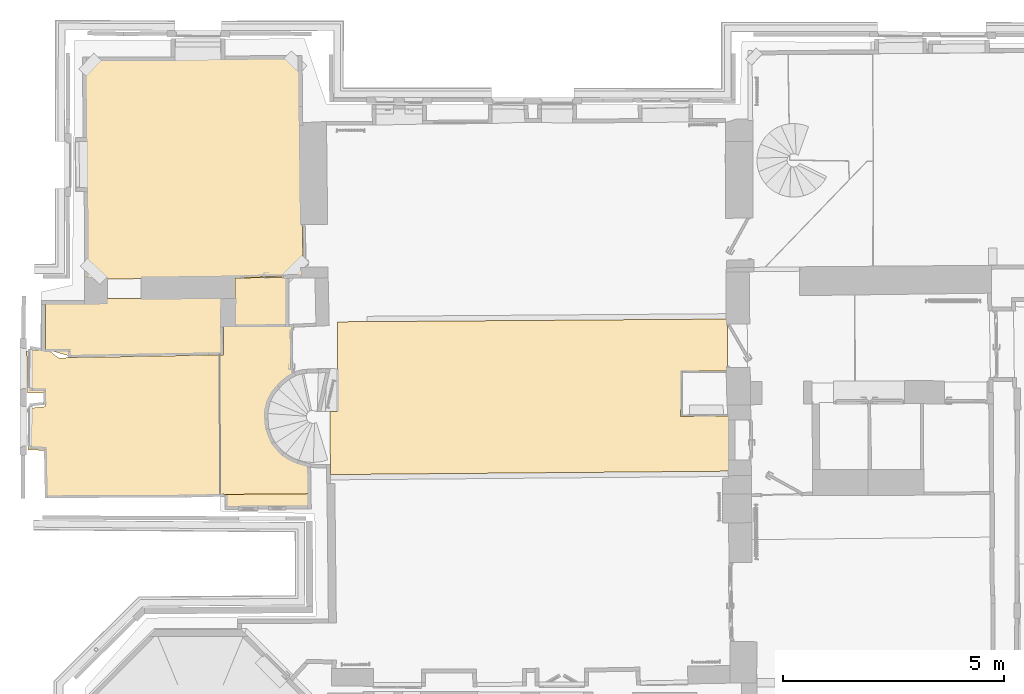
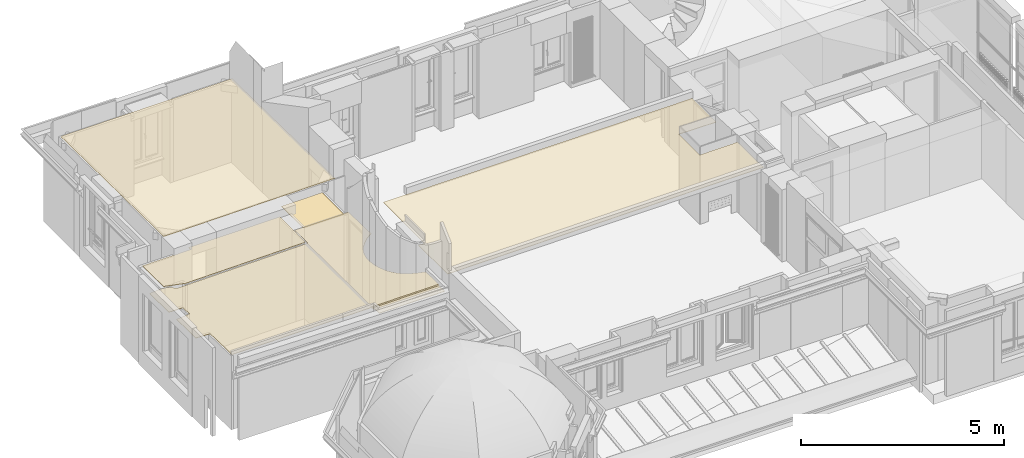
# One storey, part 67 of 72: 5 coverings.
"""IFC2X3 building model written with IfcOpenShell, lengths in centimetres."""

from ifc_helpers import new_model, entity, si_unit, converted_unit, direction, frame, origin, origin_with_axes, place, context, subcontext, project, spatial, faceted_brep, material, element, save


model = new_model("IFC2X3")

# Units and contexts
model_context = context("Model", 3, precision=0.0001, world=origin(), true_north=direction((0.225632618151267, 0.974212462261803, 0.0)))
body_context = subcontext(model_context, "Body", "Model", "MODEL_VIEW")
ifc_project = project(units=[si_unit("LENGTHUNIT", "METRE", prefix="CENTI"), si_unit("AREAUNIT", "SQUARE_METRE", prefix="CENTI"), si_unit("VOLUMEUNIT", "CUBIC_METRE", prefix="CENTI"), converted_unit("PLANEANGLEUNIT", "DEGREE", entity("IfcRatioMeasure", 0.0174532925), si_unit("PLANEANGLEUNIT", "RADIAN"), dimensions=[0, 0, 0, 0, 0, 0, 0])], contexts=[model_context])

# Site, building, storey
site_placement = place(None, origin_with_axes())
site = spatial("IfcSite", under=ifc_project, at=site_placement, Name="Default Site", CompositionType="ELEMENT")
building_placement = place(site_placement, origin_with_axes())
building = spatial("IfcBuilding", under=site, at=building_placement, Name="Default Building", CompositionType="ELEMENT")
storey_placement = place(building_placement, frame((0.0, 0.0, 853.910374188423), z_axis=(0.0, 0.0, 1.0), x_axis=(1.0, 0.0, 0.0)))
storey = spatial("IfcBuildingStorey", under=building, at=storey_placement, Name="Niveau 2", CompositionType="ELEMENT", Elevation=853.910374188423)

# Coverings
ifc_material = material(Name="Blanc")
covering_1_placement = place(storey_placement, frame((-874.718052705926, 204.344589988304, 218.5), z_axis=(0.0, 0.0, 1.0), x_axis=(1.0, 0.0, 0.0)))
element("IfcCovering", 1, at=covering_1_placement, inside=storey, material=ifc_material, Name="Faux-plafond 170647", PredefinedType="CEILING", context=body_context, shape_type="Brep", body=[
    faceted_brep([(-0.114386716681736, -107.098902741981, 1.40001246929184), (115.983397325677, -106.921614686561, 1.40001246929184), (116.350418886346, 1.53125973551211, 1.40001246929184), (0.0238006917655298, 0.0235006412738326, 1.40001246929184), (0.0238006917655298, 0.0235006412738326, 1.85728074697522e-05), (116.350418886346, 1.53125973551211, 1.85728074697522e-05), (115.983397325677, -106.921614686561, 1.85728074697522e-05), (-0.114386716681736, -107.098902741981, 1.85728074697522e-05), (115.983397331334, -106.921618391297, 1.85728074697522e-05), (115.983397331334, -106.921618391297, 1.40001246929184), (116.350404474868, 1.5312597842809, 1.85728074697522e-05), (116.350404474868, 1.5312597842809, 1.40001246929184), (0.0238008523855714, 0.0234882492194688, 1.85728074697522e-05), (0.0238008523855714, 0.0234882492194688, 1.40001246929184), (-0.114353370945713, -107.098902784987, 1.85728074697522e-05), (-0.114353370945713, -107.098902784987, 1.40001246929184)], [[[0, 1, 2, 3]], [[4, 5, 6, 7]], [[7, 8, 9, 0]], [[6, 10, 11, 1]], [[5, 12, 13, 2]], [[4, 14, 15, 3]]]),
])
covering_2_placement = place(storey_placement, frame((-1215.87809559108, 698.89979594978, 247.5), z_axis=(0.0, 0.0, 1.0), x_axis=(1.0, 0.0, 0.0)))
element("IfcCovering", 2, at=covering_2_placement, inside=storey, material=ifc_material, Name="Faux-plafond 206070", PredefinedType="CEILING", context=body_context, shape_type="Brep", body=[
    faceted_brep([(5.080308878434, -497.588922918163, 1.40000865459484), (494.592847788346, -491.773726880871, 1.40000865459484), (488.433351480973, 4.04257541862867, 1.40000865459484), (-9.57249373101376e-06, -2.32490160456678e-06, 1.40000865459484), (-9.57249373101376e-06, -2.32490160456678e-06, 1.4758110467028e-05), (488.433351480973, 4.04257541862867, 1.4758110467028e-05), (494.592847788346, -491.773726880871, 1.4758110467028e-05), (5.080308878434, -497.588922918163, 1.4758110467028e-05), (494.592847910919, -491.773737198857, 1.4758110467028e-05), (494.592847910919, -491.773737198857, 1.40000865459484), (488.433367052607, 4.04257561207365, 1.4758110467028e-05), (488.433367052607, 4.04257561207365, 1.40000865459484), (-9.4723354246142e-06, -1.44262178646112e-05, 1.4758110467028e-05), (-9.4723354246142e-06, -1.44262178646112e-05, 1.40000865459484), (5.08030707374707, -497.588922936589, 1.4758110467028e-05), (5.08030707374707, -497.588922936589, 1.40000865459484)], [[[0, 1, 2, 3]], [[4, 5, 6, 7]], [[7, 8, 9, 0]], [[6, 10, 11, 1]], [[5, 12, 13, 2]], [[4, 14, 15, 3]]]),
])
covering_3_placement = place(storey_placement, frame((-1300.68072650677, -289.393249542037, 222.0), z_axis=(0.0, 0.0, 1.0), x_axis=(1.0, 0.0, 0.0)))
element("IfcCovering", 3, at=covering_3_placement, inside=storey, material=ifc_material, Name="Faux-plafond 176923", PredefinedType="CEILING", context=body_context, shape_type="Brep", body=[
    faceted_brep([(400.195497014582, 6.29767516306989, 1.39999721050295), (494.022649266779, 5.53073027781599, 1.39999721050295), (591.395705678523, 7.82534220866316, 1.39999721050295), (590.479463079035, 69.1771898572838, 1.39999721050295), (583.757155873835, 71.0040722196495, 1.39999721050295), (577.085965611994, 73.0097208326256, 1.39999721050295), (570.470708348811, 75.1927051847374, 1.39999721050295), (563.916057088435, 77.5514993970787, 1.39999721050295), (557.426732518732, 80.08438685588, 1.39999721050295), (546.370786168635, 85.3724394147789, 1.39999721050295), (536.036056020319, 91.959706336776, 1.39999721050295), (526.574557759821, 99.7493062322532, 1.39999721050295), (518.125337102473, 108.626738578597, 1.39999721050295), (510.812610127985, 118.461481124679, 1.39999721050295), (505.433553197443, 129.270592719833, 1.39999721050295), (501.002591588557, 140.501705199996, 1.39999721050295), (497.552484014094, 152.071836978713, 1.39999721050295), (495.108788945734, 163.895514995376, 1.39999721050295), (493.689435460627, 175.885370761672, 1.39999721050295), (493.902200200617, 192.48348215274, 1.39999721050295), (497.006696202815, 208.790055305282, 1.39999721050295), (502.907842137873, 224.305180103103, 1.39999721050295), (511.424678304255, 238.553211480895, 1.39999721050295), (522.296088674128, 251.097339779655, 1.39999721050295), (528.027480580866, 257.35244491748, 1.39999721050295), (534.246200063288, 263.123360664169, 1.39999721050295), (540.911382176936, 268.372251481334, 1.39999721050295), (547.979348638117, 273.064709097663, 1.39999721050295), (555.403798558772, 277.169969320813, 1.39999721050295), (553.786605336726, 385.334304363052, 1.39999721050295), (399.757951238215, 385.099098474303, 1.39999721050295), (399.857133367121, 320.122036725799, 1.39999721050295), (27.0157751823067, 313.284528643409, 1.39999721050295), (9.25111148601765, 326.902193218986, 1.39999721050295), (-3.32308437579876, 331.926280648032, 1.39999721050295), (-44.8082032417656, 328.263518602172, 1.39999721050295), (-42.9625573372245, 234.577051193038, 1.39999721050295), (-3.81575252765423, 234.023169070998, 1.39999721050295), (-3.38068630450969, 203.247872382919, 1.39999721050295), (-42.4585404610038, 199.108568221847, 1.39999721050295), (-41.2255349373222, 105.822030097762, 1.39999721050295), (-2.04659130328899, 104.043534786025, 1.39999721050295), (-6.22028117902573e-06, -8.55275041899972e-06, 1.39999721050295), (390.600293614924, 3.18714717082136, 1.39999721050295), (390.600293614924, 3.18714717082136, 3.31401857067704e-06), (-6.22028117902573e-06, -8.55275041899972e-06, 3.31401857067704e-06), (-2.04659130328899, 104.043534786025, 3.31401857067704e-06), (-41.2255349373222, 105.822030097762, 3.31401857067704e-06), (-42.4585404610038, 199.108568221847, 3.31401857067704e-06), (-3.38068630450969, 203.247872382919, 3.31401857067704e-06), (-3.81575252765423, 234.023169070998, 3.31401857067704e-06), (-42.9625573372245, 234.577051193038, 3.31401857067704e-06), (-44.8082032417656, 328.263518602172, 3.31401857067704e-06), (-3.32308437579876, 331.926280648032, 3.31401857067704e-06), (9.25111148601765, 326.902193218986, 3.31401857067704e-06), (27.0157751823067, 313.284528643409, 3.31401857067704e-06), (399.857133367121, 320.122036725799, 3.31401857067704e-06), (399.757951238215, 385.099098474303, 3.31401857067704e-06), (553.786605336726, 385.334304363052, 3.31401857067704e-06), (555.403798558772, 277.169969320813, 3.31401857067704e-06), (547.979348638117, 273.064709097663, 3.31401857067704e-06), (540.911382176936, 268.372251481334, 3.31401857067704e-06), (534.246200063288, 263.123360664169, 3.31401857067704e-06), (528.027480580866, 257.35244491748, 3.31401857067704e-06), (522.296088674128, 251.097339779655, 3.31401857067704e-06), (511.424678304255, 238.553211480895, 3.31401857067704e-06), (502.907842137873, 224.305180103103, 3.31401857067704e-06), (497.006696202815, 208.790055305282, 3.31401857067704e-06), (493.902200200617, 192.48348215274, 3.31401857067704e-06), (493.689435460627, 175.885370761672, 3.31401857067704e-06), (495.108788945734, 163.895514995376, 3.31401857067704e-06), (497.552484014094, 152.071836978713, 3.31401857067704e-06), (501.002591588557, 140.501705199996, 3.31401857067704e-06), (505.433553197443, 129.270592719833, 3.31401857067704e-06), (510.812610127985, 118.461481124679, 3.31401857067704e-06), (518.125337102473, 108.626738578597, 3.31401857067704e-06), (526.574557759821, 99.7493062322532, 3.31401857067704e-06), (536.036056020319, 91.959706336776, 3.31401857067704e-06), (546.370786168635, 85.3724394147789, 3.31401857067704e-06), (557.426732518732, 80.08438685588, 3.31401857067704e-06), (563.916057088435, 77.5514993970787, 3.31401857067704e-06), (570.470708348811, 75.1927051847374, 3.31401857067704e-06), (577.085965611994, 73.0097208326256, 3.31401857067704e-06), (583.757155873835, 71.0040722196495, 3.31401857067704e-06), (590.479463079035, 69.1771898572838, 3.31401857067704e-06), (591.395705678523, 7.82534220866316, 3.31401857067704e-06), (494.022649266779, 5.53073027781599, 3.31401857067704e-06), (400.195497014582, 6.29767516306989, 3.31401857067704e-06), (494.022649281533, 5.53073208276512, 3.31401857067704e-06), (494.022649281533, 5.53073208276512, 1.39999721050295), (591.395705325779, 7.82535717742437, 3.31401857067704e-06), (591.395705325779, 7.82535717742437, 1.39999721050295), (590.479435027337, 69.1771894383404, 3.31401857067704e-06), (590.479435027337, 69.1771894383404, 1.39999721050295), (583.757153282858, 71.0040626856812, 3.31401857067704e-06), (583.757153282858, 71.0040626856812, 1.39999721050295), (577.085967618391, 73.0097275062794, 3.31401857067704e-06), (577.085967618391, 73.0097275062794, 1.39999721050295), (570.470710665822, 75.1927122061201, 3.31401857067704e-06), (570.470710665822, 75.1927122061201, 1.39999721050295), (563.916054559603, 77.5514923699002, 3.31401857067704e-06), (563.916054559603, 77.5514923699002, 1.39999721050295), (557.426730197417, 80.084380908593, 3.31401857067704e-06), (557.426730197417, 80.084380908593, 1.39999721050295), (546.37079169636, 85.3724509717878, 3.31401857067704e-06), (546.37079169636, 85.3724509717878, 1.39999721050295), (536.036060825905, 91.9597138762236, 3.31401857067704e-06), (536.036060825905, 91.9597138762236, 1.39999721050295), (526.574555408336, 99.7493033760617, 3.31401857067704e-06), (526.574555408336, 99.7493033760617, 1.39999721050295), (518.125337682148, 108.626739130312, 3.31401857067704e-06), (518.125337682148, 108.626739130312, 1.39999721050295), (510.812621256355, 118.461489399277, 3.31401857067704e-06), (510.812621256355, 118.461489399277, 1.39999721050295), (505.433535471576, 129.270583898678, 3.31401857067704e-06), (505.433535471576, 129.270583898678, 1.39999721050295), (501.002595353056, 140.501706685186, 3.31401857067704e-06), (501.002595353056, 140.501706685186, 1.39999721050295), (497.552492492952, 152.071839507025, 3.31401857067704e-06), (497.552492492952, 152.071839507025, 1.39999721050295), (495.108734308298, 163.895503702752, 3.31401857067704e-06), (495.108734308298, 163.895503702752, 1.39999721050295), (493.68944077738, 175.885371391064, 3.31401857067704e-06), (493.68944077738, 175.885371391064, 1.39999721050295), (493.902210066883, 192.483482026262, 3.31401857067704e-06), (493.902210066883, 192.483482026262, 1.39999721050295), (497.006743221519, 208.790046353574, 3.31401857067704e-06), (497.006743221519, 208.790046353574, 1.39999721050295), (502.907835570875, 224.305182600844, 3.31401857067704e-06), (502.907835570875, 224.305182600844, 1.39999721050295), (511.424668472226, 238.553217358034, 3.31401857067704e-06), (511.424668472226, 238.553217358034, 1.39999721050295), (522.296084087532, 251.09734375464, 3.31401857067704e-06), (522.296084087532, 251.09734375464, 1.39999721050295), (528.027497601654, 257.352429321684, 3.31401857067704e-06), (528.027497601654, 257.352429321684, 1.39999721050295), (534.246185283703, 263.123376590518, 3.31401857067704e-06), (534.246185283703, 263.123376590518, 1.39999721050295), (540.911381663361, 268.372252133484, 3.31401857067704e-06), (540.911381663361, 268.372252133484, 1.39999721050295), (547.979353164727, 273.064702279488, 3.31401857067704e-06), (547.979353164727, 273.064702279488, 1.39999721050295), (555.403796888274, 277.169972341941, 3.31401857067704e-06), (555.403796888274, 277.169972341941, 1.39999721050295), (553.78658582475, 385.334304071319, 3.31401857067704e-06), (553.78658582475, 385.334304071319, 1.39999721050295), (399.75795123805, 385.099098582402, 3.31401857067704e-06), (399.75795123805, 385.099098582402, 1.39999721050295), (399.857172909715, 320.122036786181, 3.31401857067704e-06), (399.857172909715, 320.122036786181, 1.39999721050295), (27.0157751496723, 313.284530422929, 3.31401857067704e-06), (27.0157751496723, 313.284530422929, 1.39999721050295), (9.25113607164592, 326.902225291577, 3.31401857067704e-06), (9.25113607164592, 326.902225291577, 1.39999721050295), (-3.3230927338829, 331.926259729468, 3.31401857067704e-06), (-3.3230927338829, 331.926259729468, 1.39999721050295), (-44.808202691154, 328.263512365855, 3.31401857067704e-06), (-44.808202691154, 328.263512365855, 1.39999721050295), (-42.9626300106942, 234.57704976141, 3.31401857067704e-06), (-42.9626300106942, 234.57704976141, 1.39999721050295), (-3.81575258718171, 234.023164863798, 3.31401857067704e-06), (-3.81575258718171, 234.023164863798, 1.39999721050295), (-3.38072307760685, 203.247871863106, 3.31401857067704e-06), (-3.38072307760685, 203.247871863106, 1.39999721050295), (-42.4585402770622, 199.108566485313, 3.31401857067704e-06), (-42.4585402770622, 199.108566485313, 1.39999721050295), (-41.225554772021, 105.822029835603, 3.31401857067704e-06), (-41.225554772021, 105.822029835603, 1.39999721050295), (-2.04659117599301, 104.043537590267, 3.31401857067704e-06), (-2.04659117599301, 104.043537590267, 1.39999721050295), (-2.28761712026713e-05, -8.88037688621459e-06, 3.31401857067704e-06), (-2.28761712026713e-05, -8.88037688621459e-06, 1.39999721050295), (390.600293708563, 3.18713569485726, 3.31401857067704e-06), (390.600293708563, 3.18713569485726, 1.39999721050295), (400.195493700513, 6.29768538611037, 3.31401857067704e-06), (400.195493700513, 6.29768538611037, 1.39999721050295)], [[[0, 1, 2, 3, 4, 5, 6, 7, 8, 9, 10, 11, 12, 13, 14, 15, 16, 17, 18, 19, 20, 21, 22, 23, 24, 25, 26, 27, 28, 29, 30, 31, 32, 33, 34, 35, 36, 37, 38, 39, 40, 41, 42, 43]], [[44, 45, 46, 47, 48, 49, 50, 51, 52, 53, 54, 55, 56, 57, 58, 59, 60, 61, 62, 63, 64, 65, 66, 67, 68, 69, 70, 71, 72, 73, 74, 75, 76, 77, 78, 79, 80, 81, 82, 83, 84, 85, 86, 87]], [[87, 88, 89, 0]], [[86, 90, 91, 1]], [[85, 92, 93, 2]], [[84, 94, 95, 3]], [[83, 96, 97, 4]], [[82, 98, 99, 5]], [[81, 100, 101, 6]], [[80, 102, 103, 7]], [[79, 104, 105, 8]], [[78, 106, 107, 9]], [[77, 108, 109, 10]], [[76, 110, 111, 11]], [[75, 112, 113, 12]], [[74, 114, 115, 13]], [[73, 116, 117, 14]], [[72, 118, 119, 15]], [[71, 120, 121, 16]], [[70, 122, 123, 17]], [[69, 124, 125, 18]], [[68, 126, 127, 19]], [[67, 128, 129, 20]], [[66, 130, 131, 21]], [[65, 132, 133, 22]], [[64, 134, 135, 23]], [[63, 136, 137, 24]], [[62, 138, 139, 25]], [[61, 140, 141, 26]], [[60, 142, 143, 27]], [[59, 144, 145, 28]], [[58, 146, 147, 29]], [[57, 148, 149, 30]], [[56, 150, 151, 31]], [[55, 152, 153, 32]], [[54, 154, 155, 33]], [[53, 156, 157, 34]], [[52, 158, 159, 35]], [[51, 160, 161, 36]], [[50, 162, 163, 37]], [[49, 164, 165, 38]], [[48, 166, 167, 39]], [[47, 168, 169, 40]], [[46, 170, 171, 41]], [[45, 172, 173, 42]], [[44, 174, 175, 43]]]),
    faceted_brep([(404.680722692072, -2.72675415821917, -2.5103535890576), (405.261796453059, -22.741564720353, -2.5103535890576), (591.82834003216, -21.1409654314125, -2.5103535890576), (591.395705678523, 7.82534220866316, -2.5103535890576), (400.2076086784, 6.29777053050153, -2.5103535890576), (400.2076086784, 6.29777053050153, -3.91034748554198), (591.395705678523, 7.82534220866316, -3.91034748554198), (591.82834003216, -21.1409654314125, -3.91034748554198), (405.261796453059, -22.741564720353, -3.91034748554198), (404.680722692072, -2.72675415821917, -3.91034748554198), (405.26176544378, -22.7415656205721, -3.91034748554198), (405.26176544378, -22.7415656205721, -2.5103535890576), (591.828339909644, -21.1409511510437, -3.91034748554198), (591.828339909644, -21.1409511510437, -2.5103535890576), (591.395737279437, 7.82534268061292, -3.91034748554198), (591.395737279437, 7.82534268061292, -2.5103535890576), (400.207608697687, 6.29776811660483, -3.91034748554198), (400.207608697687, 6.29776811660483, -2.5103535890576), (404.680710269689, -2.72676031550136, -3.91034748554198), (404.680710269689, -2.72676031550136, -2.5103535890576)], [[[0, 1, 2, 3, 4]], [[5, 6, 7, 8, 9]], [[9, 10, 11, 0]], [[8, 12, 13, 1]], [[7, 14, 15, 2]], [[6, 16, 17, 3]], [[5, 18, 19, 4]]]),
    faceted_brep([(591.405766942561, 6.57538512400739, -3.91034748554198), (400.217717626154, 5.04354575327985, -3.91034748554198), (400.207704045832, 6.29350283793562, -3.91034748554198), (591.395705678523, 7.82534220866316, -3.91034748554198), (400.217717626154, 5.04354575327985, 1.58958766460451), (400.207702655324, 6.29350282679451, 1.58958766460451), (400.207702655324, 6.29350282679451, -3.91034748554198), (591.405766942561, 6.57538512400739, 1.58958766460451), (591.395705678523, 7.82534220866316, 1.58958766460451), (400.207704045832, 6.29350283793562, 1.58958766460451), (591.395751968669, 7.82534257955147, -3.91034748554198), (591.395751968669, 7.82534257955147, 1.58958766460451), (400.207642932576, 6.29349530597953, -3.91034748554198), (400.207704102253, 6.29349579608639, 1.58958766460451), (400.217717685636, 5.04353832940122, 1.58958766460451), (400.217717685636, 5.04353832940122, -3.91034748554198)], [[[0, 1, 2, 3]], [[1, 4, 5, 6]], [[4, 7, 8, 9]], [[7, 0, 10, 11]], [[3, 12, 13, 8]], [[7, 14, 15, 0]]]),
])
covering_4_placement = place(storey_placement, frame((-1303.18285936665, 146.478762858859, 225.0), z_axis=(0.0, 0.0, 1.0), x_axis=(1.0, 0.0, 0.0)))
element("IfcCovering", 4, at=covering_4_placement, inside=storey, material=ifc_material, Name="Faux-plafond 206400", PredefinedType="CEILING", context=body_context, shape_type="Brep", body=[
    faceted_brep([(0.63492769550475, -102.926677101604, 1.39997050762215), (54.8950862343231, -118.453481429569, 1.39997050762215), (397.841138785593, -112.889000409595, 1.39997050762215), (397.581834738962, 13.3705947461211, 1.39997050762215), (137.078161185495, 11.4353630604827, 1.39997050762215), (137.458772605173, 1.44260860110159, 1.39997050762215), (-2.86643585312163e-05, -2.6163971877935e-06, 1.39997050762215), (-2.86643585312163e-05, -2.6163971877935e-06, -2.33888622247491e-05), (137.458772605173, 1.44260860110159, -2.33888622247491e-05), (137.078161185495, 11.4353630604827, -2.33888622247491e-05), (397.581834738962, 13.3705947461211, -2.33888622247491e-05), (397.841138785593, -112.889000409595, -2.33888622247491e-05), (54.8950862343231, -118.453481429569, -2.33888622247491e-05), (0.63492769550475, -102.926677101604, -2.33888622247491e-05), (54.8950836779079, -118.453490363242, -2.33888622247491e-05), (54.8950836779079, -118.453490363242, 1.39997050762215), (397.841138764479, -112.888999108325, -2.33888622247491e-05), (397.841138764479, -112.888999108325, 1.39997050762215), (397.581860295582, 13.3705947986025, -2.33888622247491e-05), (397.581860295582, 13.3705947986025, 1.39997050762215), (137.07816115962, 11.4353665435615, -2.33888622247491e-05), (137.07816115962, 11.4353665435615, 1.39997050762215), (137.458805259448, 1.44260984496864, -2.33888622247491e-05), (137.458805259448, 1.44260984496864, 1.39997050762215), (-2.8660555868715e-05, -2.97873271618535e-06, -2.33888622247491e-05), (-2.8660555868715e-05, -2.97873271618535e-06, 1.39997050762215), (0.634941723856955, -102.926677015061, -2.33888622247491e-05), (0.634941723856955, -102.926677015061, 1.39997050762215)], [[[0, 1, 2, 3, 4, 5, 6]], [[7, 8, 9, 10, 11, 12, 13]], [[13, 14, 15, 0]], [[12, 16, 17, 1]], [[11, 18, 19, 2]], [[10, 20, 21, 3]], [[9, 22, 23, 4]], [[8, 24, 25, 5]], [[7, 26, 27, 6]]]),
])
covering_5_placement = place(storey_placement, frame((-662.423589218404, 105.188625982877, 209.5), z_axis=(0.0, 0.0, 1.0), x_axis=(1.0, 0.0, 0.0)))
element("IfcCovering", 5, at=covering_5_placement, inside=storey, material=ifc_material, Name="Faux-plafond 219732", PredefinedType="CEILING", context=body_context, shape_type="Brep", body=[
    faceted_brep([(2.83377407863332, -344.80041854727, 1.39999721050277), (903.859474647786, -337.056559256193, 1.39999721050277), (903.02000283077, -212.137216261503, 1.39999721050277), (793.670930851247, -213.40209834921, 1.39999721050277), (794.293978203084, -110.574640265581, 1.39999721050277), (899.170114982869, -111.278194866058, 1.39999721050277), (899.094607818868, 6.52058727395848, 1.39999721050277), (18.9850592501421, 0.137692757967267, 1.39999721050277), (18.5867094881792, -202.561360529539, 1.39999721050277), (1.46792172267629, -202.404588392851, 1.39999721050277), (1.46792172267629, -202.404588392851, 3.31401839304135e-06), (18.5867094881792, -202.561360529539, 3.31401839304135e-06), (18.9850592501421, 0.137692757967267, 3.31401839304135e-06), (899.094607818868, 6.52058727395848, 3.31401839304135e-06), (899.170114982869, -111.278194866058, 3.31401839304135e-06), (794.293978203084, -110.574640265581, 3.31401839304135e-06), (793.670930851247, -213.40209834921, 3.31401839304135e-06), (903.02000283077, -212.137216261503, 3.31401839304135e-06), (903.859474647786, -337.056559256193, 3.31401839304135e-06), (2.83377407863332, -344.80041854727, 3.31401839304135e-06), (903.859474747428, -337.056570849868, 3.31401839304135e-06), (903.859474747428, -337.056570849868, 1.39999721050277), (903.019998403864, -212.137216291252, 3.31401839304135e-06), (903.019998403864, -212.137216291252, 1.39999721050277), (793.670930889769, -213.402101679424, 3.31401839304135e-06), (793.670930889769, -213.402101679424, 1.39999721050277), (794.293975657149, -110.574640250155, 3.31401839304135e-06), (794.293975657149, -110.574640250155, 1.39999721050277), (899.170114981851, -111.278195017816, 3.31401839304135e-06), (899.170114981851, -111.278195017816, 1.39999721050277), (899.094607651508, 6.5205872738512, 3.31401839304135e-06), (899.094607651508, 6.5205872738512, 1.39999721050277), (18.9850592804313, 0.137688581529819, 3.31401839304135e-06), (18.9850592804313, 0.137688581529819, 1.39999721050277), (18.5867363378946, -202.561360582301, 3.31401839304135e-06), (18.5867363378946, -202.561360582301, 1.39999721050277), (1.46792176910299, -202.404583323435, 3.31401839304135e-06), (1.46792176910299, -202.404583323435, 1.39999721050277), (2.83376148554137, -344.800418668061, 3.31401839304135e-06), (2.83376148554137, -344.800418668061, 1.39999721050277)], [[[0, 1, 2, 3, 4, 5, 6, 7, 8, 9]], [[10, 11, 12, 13, 14, 15, 16, 17, 18, 19]], [[19, 20, 21, 0]], [[18, 22, 23, 1]], [[17, 24, 25, 2]], [[16, 26, 27, 3]], [[15, 28, 29, 4]], [[14, 30, 31, 5]], [[13, 32, 33, 6]], [[12, 34, 35, 7]], [[11, 36, 37, 8]], [[10, 38, 39, 9]]]),
])

save(model, "model.ifc")
